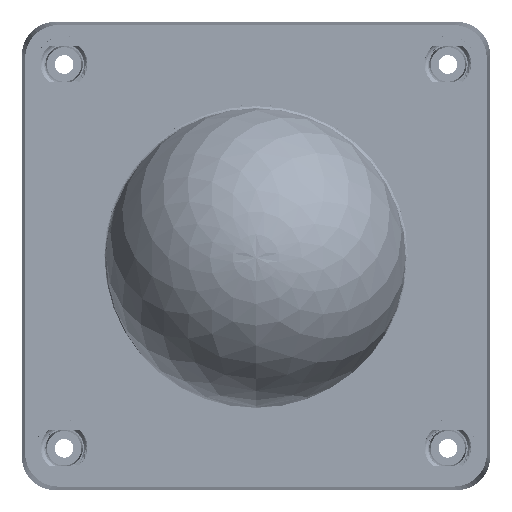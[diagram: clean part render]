
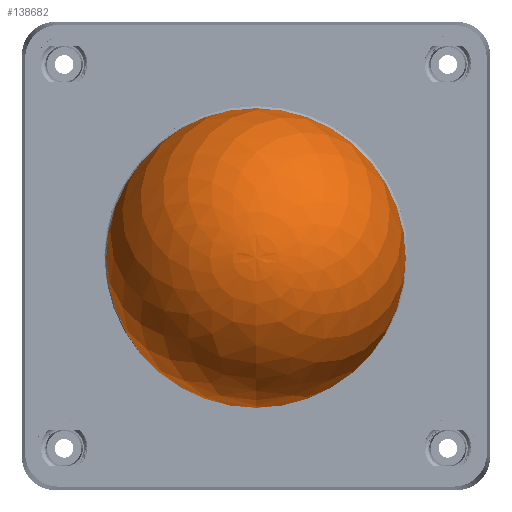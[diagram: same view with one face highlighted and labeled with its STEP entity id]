
A CAD part, top view. The second image highlights one B-rep face of the part: STEP entity #138682.
In plain terms, the highlighted face is a revolution surface.
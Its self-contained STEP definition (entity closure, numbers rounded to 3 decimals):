
#138611 = CYLINDRICAL_SURFACE('',#138612,32.);
#138612 = AXIS2_PLACEMENT_3D('',#138613,#138614,#138615);
#138613 = CARTESIAN_POINT('',(0.,0.,25.75));
#138614 = DIRECTION('',(-0.,0.,-1.));
#138615 = DIRECTION('',(0.,-1.,0.));
#138628 = VERTEX_POINT('',#138629);
#138629 = CARTESIAN_POINT('',(0.,-32.,25.75));
#138652 = EDGE_CURVE('',#138628,#138628,#138653,.T.);
#138653 = SURFACE_CURVE('',#138654,(#138659,#138666),.PCURVE_S1.);
#138654 = CIRCLE('',#138655,32.);
#138655 = AXIS2_PLACEMENT_3D('',#138656,#138657,#138658);
#138656 = CARTESIAN_POINT('',(0.,0.,25.75));
#138657 = DIRECTION('',(-0.,0.,1.));
#138658 = DIRECTION('',(0.,-1.,0.));
#138659 = PCURVE('',#138611,#138660);
#138660 = DEFINITIONAL_REPRESENTATION('',(#138661),#138665);
#138661 = LINE('',#138662,#138663);
#138662 = CARTESIAN_POINT('',(6.283,0.));
#138663 = VECTOR('',#138664,1.);
#138664 = DIRECTION('',(-1.,0.));
#138665 = ( GEOMETRIC_REPRESENTATION_CONTEXT(2) 
PARAMETRIC_REPRESENTATION_CONTEXT() REPRESENTATION_CONTEXT('2D SPACE',''
  ) );
#138666 = PCURVE('',#138667,#138676);
#138667 = SURFACE_OF_REVOLUTION('',#138668,#138673);
#138668 = ELLIPSE('',#138669,33.25,32.);
#138669 = AXIS2_PLACEMENT_3D('',#138670,#138671,#138672);
#138670 = CARTESIAN_POINT('',(0.,0.,25.75));
#138671 = DIRECTION('',(1.,0.,-0.));
#138672 = DIRECTION('',(0.,0.,-1.));
#138673 = AXIS1_PLACEMENT('',#138674,#138675);
#138674 = CARTESIAN_POINT('',(0.,0.,0.));
#138675 = DIRECTION('',(0.,0.,1.));
#138676 = DEFINITIONAL_REPRESENTATION('',(#138677),#138681);
#138677 = LINE('',#138678,#138679);
#138678 = CARTESIAN_POINT('',(-3.142,1.571));
#138679 = VECTOR('',#138680,1.);
#138680 = DIRECTION('',(1.,0.));
#138681 = ( GEOMETRIC_REPRESENTATION_CONTEXT(2) 
PARAMETRIC_REPRESENTATION_CONTEXT() REPRESENTATION_CONTEXT('2D SPACE',''
  ) );
#138682 = ADVANCED_FACE('',(#138683),#138667,.T.);
#138683 = FACE_BOUND('',#138684,.T.);
#138684 = EDGE_LOOP('',(#138685,#138709,#138710,#138711));
#138685 = ORIENTED_EDGE('',*,*,#138686,.T.);
#138686 = EDGE_CURVE('',#138687,#138628,#138689,.T.);
#138687 = VERTEX_POINT('',#138688);
#138688 = CARTESIAN_POINT('',(0.,-0.002,59.));
#138689 = SEAM_CURVE('',#138690,(#138695,#138702),.PCURVE_S1.);
#138690 = ELLIPSE('',#138691,33.25,32.);
#138691 = AXIS2_PLACEMENT_3D('',#138692,#138693,#138694);
#138692 = CARTESIAN_POINT('',(0.,0.,25.75));
#138693 = DIRECTION('',(1.,0.,-0.));
#138694 = DIRECTION('',(0.,0.,1.));
#138695 = PCURVE('',#138667,#138696);
#138696 = DEFINITIONAL_REPRESENTATION('',(#138697),#138701);
#138697 = LINE('',#138698,#138699);
#138698 = CARTESIAN_POINT('',(-3.142,3.142));
#138699 = VECTOR('',#138700,1.);
#138700 = DIRECTION('',(0.,-1.));
#138701 = ( GEOMETRIC_REPRESENTATION_CONTEXT(2) 
PARAMETRIC_REPRESENTATION_CONTEXT() REPRESENTATION_CONTEXT('2D SPACE',''
  ) );
#138702 = PCURVE('',#138667,#138703);
#138703 = DEFINITIONAL_REPRESENTATION('',(#138704),#138708);
#138704 = LINE('',#138705,#138706);
#138705 = CARTESIAN_POINT('',(3.142,3.142));
#138706 = VECTOR('',#138707,1.);
#138707 = DIRECTION('',(0.,-1.));
#138708 = ( GEOMETRIC_REPRESENTATION_CONTEXT(2) 
PARAMETRIC_REPRESENTATION_CONTEXT() REPRESENTATION_CONTEXT('2D SPACE',''
  ) );
#138709 = ORIENTED_EDGE('',*,*,#138652,.T.);
#138710 = ORIENTED_EDGE('',*,*,#138686,.F.);
#138711 = ORIENTED_EDGE('',*,*,#138712,.F.);
#138712 = EDGE_CURVE('',#138687,#138687,#138713,.T.);
#138713 = SURFACE_CURVE('',#138714,(#138719,#138726),.PCURVE_S1.);
#138714 = CIRCLE('',#138715,0.002);
#138715 = AXIS2_PLACEMENT_3D('',#138716,#138717,#138718);
#138716 = CARTESIAN_POINT('',(0.,0.,59.));
#138717 = DIRECTION('',(-0.,0.,1.));
#138718 = DIRECTION('',(0.,-1.,0.));
#138719 = PCURVE('',#138667,#138720);
#138720 = DEFINITIONAL_REPRESENTATION('',(#138721),#138725);
#138721 = LINE('',#138722,#138723);
#138722 = CARTESIAN_POINT('',(-3.142,3.142));
#138723 = VECTOR('',#138724,1.);
#138724 = DIRECTION('',(1.,0.));
#138725 = ( GEOMETRIC_REPRESENTATION_CONTEXT(2) 
PARAMETRIC_REPRESENTATION_CONTEXT() REPRESENTATION_CONTEXT('2D SPACE',''
  ) );
#138726 = PCURVE('',#138727,#138732);
#138727 = CYLINDRICAL_SURFACE('',#138728,0.002);
#138728 = AXIS2_PLACEMENT_3D('',#138729,#138730,#138731);
#138729 = CARTESIAN_POINT('',(0.,0.,57.8));
#138730 = DIRECTION('',(0.,0.,1.));
#138731 = DIRECTION('',(0.,-1.,0.));
#138732 = DEFINITIONAL_REPRESENTATION('',(#138733),#138737);
#138733 = LINE('',#138734,#138735);
#138734 = CARTESIAN_POINT('',(0.,1.2));
#138735 = VECTOR('',#138736,1.);
#138736 = DIRECTION('',(1.,0.));
#138737 = ( GEOMETRIC_REPRESENTATION_CONTEXT(2) 
PARAMETRIC_REPRESENTATION_CONTEXT() REPRESENTATION_CONTEXT('2D SPACE',''
  ) );
